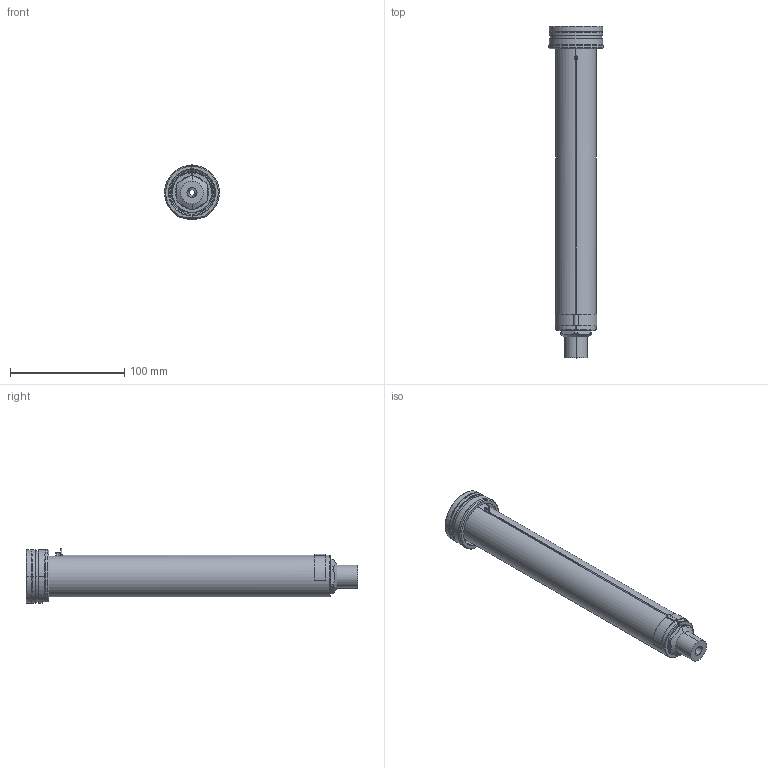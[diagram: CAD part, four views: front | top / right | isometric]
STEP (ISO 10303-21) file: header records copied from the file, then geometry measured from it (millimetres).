
FILE_DESCRIPTION((''),'2;1');
FILE_NAME('EO16_VG-ST_ESG_260_SW','2024-02-19T12:58:52',('sundharh'),(''),'CREO PARAMETRIC BY PTC INC, 2023154','CREO PARAMETRIC BY PTC INC, 2023154','');
FILE_SCHEMA(('CONFIG_CONTROL_DESIGN'));
Length unit declared in the file: millimetre
Products named in the file (1): EO16_VG-ST_ESG_260_SW
Bounding box: 47.97 x 290 x 48 mm (x, y, z)
Volume: 230495.5 mm3; surface area: 53839 mm2
Topology: 1 solids, 1 shells, 169 faces, 418 edges, 256 vertices
Faces by surface type: cylinder 64, plane 45, cone 35, torus 14, bspline 9, sphere 2
Entity records: 5886 total; most frequent: CARTESIAN_POINT 1800, DIRECTION 906, ORIENTED_EDGE 824, EDGE_CURVE 412, AXIS2_PLACEMENT_3D 374, VERTEX_POINT 256, CIRCLE 214, EDGE_LOOP 184
